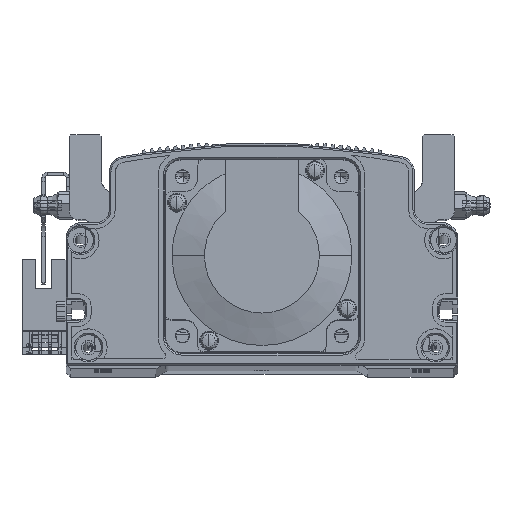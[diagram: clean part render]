
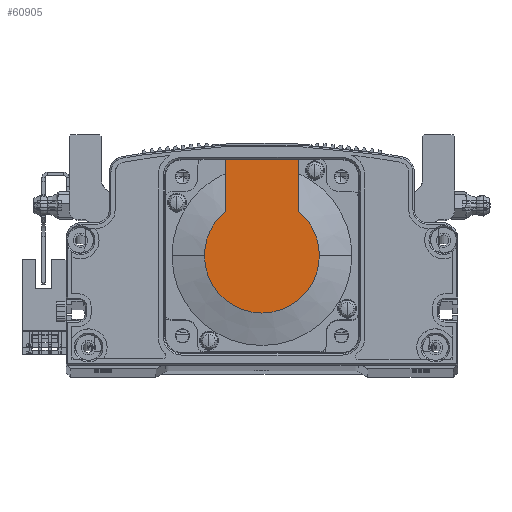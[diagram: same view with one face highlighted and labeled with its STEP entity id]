
A CAD part, top view. The second image highlights one B-rep face of the part: STEP entity #60905.
In plain terms, the highlighted planar face has unit normal (0, 0, 1) as drawn and (-1, 0, 0) by its records, which use the part's own axes.
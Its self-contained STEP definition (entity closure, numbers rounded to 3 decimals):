
#579 = DIRECTION ( 'NONE',  ( -1., 0., 0. ) ) ;
#633 = ORIENTED_EDGE ( 'NONE', *, *, #52740, .T. ) ;
#1090 = CARTESIAN_POINT ( 'NONE',  ( -118.5, 0., 11.45 ) ) ;
#2884 = VECTOR ( 'NONE', #68015, 1000. ) ;
#5354 = CARTESIAN_POINT ( 'NONE',  ( -118.5, 0., 0. ) ) ;
#6586 = DIRECTION ( 'NONE',  ( 0., 0., -1. ) ) ;
#6761 = CARTESIAN_POINT ( 'NONE',  ( -118.5, 30., 11.45 ) ) ;
#10020 = CIRCLE ( 'NONE', #55069, 17.881 ) ;
#11802 = CARTESIAN_POINT ( 'NONE',  ( -118.5, -8.941, 0. ) ) ;
#12142 = LINE ( 'NONE', #1090, #65704 ) ;
#12313 = DIRECTION ( 'NONE',  ( -1., 0., 0. ) ) ;
#13818 = ORIENTED_EDGE ( 'NONE', *, *, #37849, .T. ) ;
#13923 = CARTESIAN_POINT ( 'NONE',  ( -118.5, 0., 0. ) ) ;
#15275 = VERTEX_POINT ( 'NONE', #82959 ) ;
#18493 = DIRECTION ( 'NONE',  ( 0., 0., 1. ) ) ;
#18783 = ORIENTED_EDGE ( 'NONE', *, *, #73421, .F. ) ;
#20904 = DIRECTION ( 'NONE',  ( 0., 0., -1. ) ) ;
#21656 = CARTESIAN_POINT ( 'NONE',  ( -118.5, 0., -17.881 ) ) ;
#24838 = VERTEX_POINT ( 'NONE', #35930 ) ;
#26950 = FACE_OUTER_BOUND ( 'NONE', #65066, .T. ) ;
#29108 = EDGE_CURVE ( 'NONE', #56402, #42247, #54018, .T. ) ;
#29867 = VECTOR ( 'NONE', #55883, 1000. ) ;
#29976 = ORIENTED_EDGE ( 'NONE', *, *, #32403, .T. ) ;
#30270 = AXIS2_PLACEMENT_3D ( 'NONE', #5354, #46433, #54099 ) ;
#32403 = EDGE_CURVE ( 'NONE', #42247, #15275, #10020, .T. ) ;
#35748 = CARTESIAN_POINT ( 'NONE',  ( -118.5, 30., -11.45 ) ) ;
#35930 = CARTESIAN_POINT ( 'NONE',  ( -118.5, 13.735, 11.45 ) ) ;
#37849 = EDGE_CURVE ( 'NONE', #15275, #24838, #45553, .T. ) ;
#39607 = CARTESIAN_POINT ( 'NONE',  ( -118.5, 30., 25. ) ) ;
#39675 = EDGE_CURVE ( 'NONE', #56675, #60324, #80270, .T. ) ;
#42247 = VERTEX_POINT ( 'NONE', #21656 ) ;
#45553 = CIRCLE ( 'NONE', #59004, 17.881 ) ;
#46282 = LINE ( 'NONE', #48503, #29867 ) ;
#46433 = DIRECTION ( 'NONE',  ( -1., 0., 0. ) ) ;
#48293 = CARTESIAN_POINT ( 'NONE',  ( -118.5, 0., 0. ) ) ;
#48503 = CARTESIAN_POINT ( 'NONE',  ( -118.5, -8.941, -11.45 ) ) ;
#50217 = ORIENTED_EDGE ( 'NONE', *, *, #39675, .F. ) ;
#52740 = EDGE_CURVE ( 'NONE', #56675, #56402, #46282, .T. ) ;
#54018 = CIRCLE ( 'NONE', #30270, 17.881 ) ;
#54099 = DIRECTION ( 'NONE',  ( 0., 0., -1. ) ) ;
#55069 = AXIS2_PLACEMENT_3D ( 'NONE', #48293, #12313, #6586 ) ;
#55883 = DIRECTION ( 'NONE',  ( 0., -1., 0. ) ) ;
#56402 = VERTEX_POINT ( 'NONE', #60357 ) ;
#56675 = VERTEX_POINT ( 'NONE', #35748 ) ;
#59004 = AXIS2_PLACEMENT_3D ( 'NONE', #13923, #579, #20904 ) ;
#60324 = VERTEX_POINT ( 'NONE', #6761 ) ;
#60357 = CARTESIAN_POINT ( 'NONE',  ( -118.5, 13.735, -11.45 ) ) ;
#60905 = ADVANCED_FACE ( 'NONE', ( #26950 ), #67042, .T. ) ;
#62968 = AXIS2_PLACEMENT_3D ( 'NONE', #11802, #67919, #18493 ) ;
#65066 = EDGE_LOOP ( 'NONE', ( #633, #79406, #29976, #13818, #18783, #50217 ) ) ;
#65704 = VECTOR ( 'NONE', #77852, 1000. ) ;
#67042 = PLANE ( 'NONE',  #62968 ) ;
#67919 = DIRECTION ( 'NONE',  ( -1., 0., 0. ) ) ;
#68015 = DIRECTION ( 'NONE',  ( 0., 0., 1. ) ) ;
#73421 = EDGE_CURVE ( 'NONE', #60324, #24838, #12142, .T. ) ;
#77852 = DIRECTION ( 'NONE',  ( 0., -1., 0. ) ) ;
#79406 = ORIENTED_EDGE ( 'NONE', *, *, #29108, .T. ) ;
#80270 = LINE ( 'NONE', #39607, #2884 ) ;
#82959 = CARTESIAN_POINT ( 'NONE',  ( -118.5, 0., 17.881 ) ) ;
